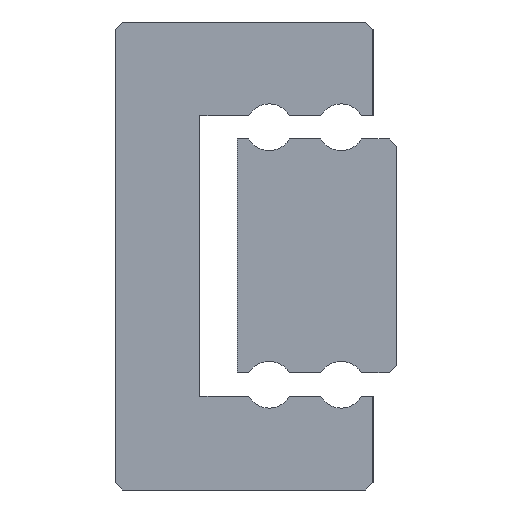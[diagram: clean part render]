
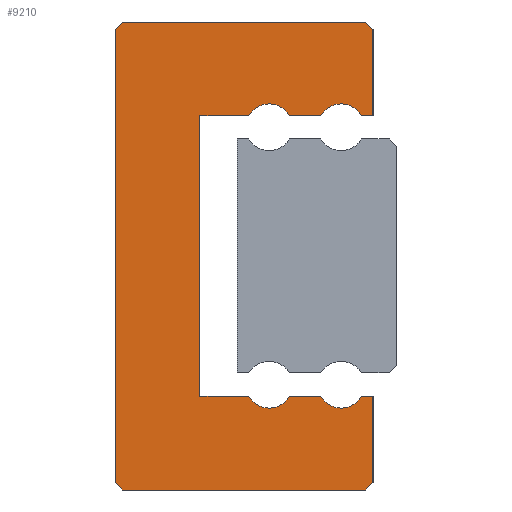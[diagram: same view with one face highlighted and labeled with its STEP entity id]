
A CAD part, left-side view. The second image highlights one B-rep face of the part: STEP entity #9210.
In plain terms, the highlighted planar face has unit normal (-1, 0, 0).
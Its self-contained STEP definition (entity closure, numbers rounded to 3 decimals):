
#294=CIRCLE('',#9994,0.5);
#296=CIRCLE('',#9998,0.5);
#302=CIRCLE('',#10008,0.5);
#304=CIRCLE('',#10012,0.5);
#1538=ORIENTED_EDGE('',*,*,#3866,.F.);
#1539=ORIENTED_EDGE('',*,*,#4314,.F.);
#1540=ORIENTED_EDGE('',*,*,#4311,.F.);
#1541=ORIENTED_EDGE('',*,*,#4304,.F.);
#1542=ORIENTED_EDGE('',*,*,#4301,.F.);
#1543=ORIENTED_EDGE('',*,*,#4298,.F.);
#1544=ORIENTED_EDGE('',*,*,#4295,.F.);
#1545=ORIENTED_EDGE('',*,*,#4292,.F.);
#1546=ORIENTED_EDGE('',*,*,#4289,.T.);
#1547=ORIENTED_EDGE('',*,*,#4286,.F.);
#1548=ORIENTED_EDGE('',*,*,#4283,.T.);
#1549=ORIENTED_EDGE('',*,*,#4280,.F.);
#1550=ORIENTED_EDGE('',*,*,#4277,.F.);
#1551=ORIENTED_EDGE('',*,*,#4270,.F.);
#1552=ORIENTED_EDGE('',*,*,#4267,.T.);
#1553=ORIENTED_EDGE('',*,*,#4264,.F.);
#1554=ORIENTED_EDGE('',*,*,#4261,.T.);
#1555=ORIENTED_EDGE('',*,*,#4258,.F.);
#1556=ORIENTED_EDGE('',*,*,#4255,.F.);
#1557=ORIENTED_EDGE('',*,*,#4252,.F.);
#3866=EDGE_CURVE('',#5284,#5285,#6246,.T.);
#4252=EDGE_CURVE('',#5285,#5670,#6384,.T.);
#4255=EDGE_CURVE('',#5670,#5672,#6387,.T.);
#4258=EDGE_CURVE('',#5672,#5674,#6390,.T.);
#4261=EDGE_CURVE('',#5676,#5674,#294,.T.);
#4264=EDGE_CURVE('',#5676,#5678,#6394,.T.);
#4267=EDGE_CURVE('',#5680,#5678,#296,.T.);
#4270=EDGE_CURVE('',#5680,#5682,#6398,.T.);
#4277=EDGE_CURVE('',#5682,#5688,#6401,.T.);
#4280=EDGE_CURVE('',#5688,#5690,#6404,.T.);
#4283=EDGE_CURVE('',#5692,#5690,#302,.T.);
#4286=EDGE_CURVE('',#5692,#5694,#6408,.T.);
#4289=EDGE_CURVE('',#5696,#5694,#304,.T.);
#4292=EDGE_CURVE('',#5696,#5698,#6412,.T.);
#4295=EDGE_CURVE('',#5698,#5700,#6415,.T.);
#4298=EDGE_CURVE('',#5700,#5702,#6418,.T.);
#4301=EDGE_CURVE('',#5702,#5704,#6421,.T.);
#4304=EDGE_CURVE('',#5704,#5706,#6424,.T.);
#4311=EDGE_CURVE('',#5706,#5712,#6427,.T.);
#4314=EDGE_CURVE('',#5712,#5284,#6430,.T.);
#5284=VERTEX_POINT('',#14021);
#5285=VERTEX_POINT('',#14022);
#5670=VERTEX_POINT('',#14794);
#5672=VERTEX_POINT('',#14800);
#5674=VERTEX_POINT('',#14806);
#5676=VERTEX_POINT('',#14812);
#5678=VERTEX_POINT('',#14818);
#5680=VERTEX_POINT('',#14824);
#5682=VERTEX_POINT('',#14830);
#5688=VERTEX_POINT('',#14844);
#5690=VERTEX_POINT('',#14850);
#5692=VERTEX_POINT('',#14856);
#5694=VERTEX_POINT('',#14862);
#5696=VERTEX_POINT('',#14868);
#5698=VERTEX_POINT('',#14874);
#5700=VERTEX_POINT('',#14880);
#5702=VERTEX_POINT('',#14886);
#5704=VERTEX_POINT('',#14892);
#5706=VERTEX_POINT('',#14898);
#5712=VERTEX_POINT('',#14912);
#6246=LINE('',#14020,#7062);
#6384=LINE('',#14793,#7200);
#6387=LINE('',#14799,#7203);
#6390=LINE('',#14805,#7206);
#6394=LINE('',#14817,#7210);
#6398=LINE('',#14829,#7214);
#6401=LINE('',#14843,#7217);
#6404=LINE('',#14849,#7220);
#6408=LINE('',#14861,#7224);
#6412=LINE('',#14873,#7228);
#6415=LINE('',#14879,#7231);
#6418=LINE('',#14885,#7234);
#6421=LINE('',#14891,#7237);
#6424=LINE('',#14897,#7240);
#6427=LINE('',#14911,#7243);
#6430=LINE('',#14917,#7246);
#7062=VECTOR('',#10941,1000.);
#7200=VECTOR('',#11577,1000.);
#7203=VECTOR('',#11582,1000.);
#7206=VECTOR('',#11587,1000.);
#7210=VECTOR('',#11599,1000.);
#7214=VECTOR('',#11611,1000.);
#7217=VECTOR('',#11624,1000.);
#7220=VECTOR('',#11629,1000.);
#7224=VECTOR('',#11641,1000.);
#7228=VECTOR('',#11653,1000.);
#7231=VECTOR('',#11658,1000.);
#7234=VECTOR('',#11663,1000.);
#7237=VECTOR('',#11668,1000.);
#7240=VECTOR('',#11673,1000.);
#7243=VECTOR('',#11686,1000.);
#7246=VECTOR('',#11691,1000.);
#7918=EDGE_LOOP('',(#1538,#1539,#1540,#1541,#1542,#1543,#1544,#1545,#1546,
#1547,#1548,#1549,#1550,#1551,#1552,#1553,#1554,#1555,#1556,#1557));
#8480=FACE_BOUND('',#7918,.T.);
#8997=PLANE('',#10026);
#9210=ADVANCED_FACE('',(#8480),#8997,.F.);
#9994=AXIS2_PLACEMENT_3D('',#14811,#11592,#11593);
#9998=AXIS2_PLACEMENT_3D('',#14823,#11604,#11605);
#10008=AXIS2_PLACEMENT_3D('',#14855,#11634,#11635);
#10012=AXIS2_PLACEMENT_3D('',#14867,#11646,#11647);
#10026=AXIS2_PLACEMENT_3D('',#14920,#11695,#11696);
#10941=DIRECTION('',(0.,-1.,0.));
#11577=DIRECTION('',(0.,-0.707,-0.707));
#11582=DIRECTION('',(0.,0.,-1.));
#11587=DIRECTION('',(0.,1.,0.));
#11592=DIRECTION('',(1.,0.,0.));
#11593=DIRECTION('',(0.,0.,-1.));
#11599=DIRECTION('',(0.,1.,0.));
#11604=DIRECTION('',(1.,0.,0.));
#11605=DIRECTION('',(0.,0.,-1.));
#11611=DIRECTION('',(0.,1.,0.));
#11624=DIRECTION('',(0.,0.,-1.));
#11629=DIRECTION('',(0.,-1.,0.));
#11634=DIRECTION('',(1.,0.,0.));
#11635=DIRECTION('',(0.,0.,-1.));
#11641=DIRECTION('',(0.,-1.,0.));
#11646=DIRECTION('',(1.,0.,0.));
#11647=DIRECTION('',(0.,0.,-1.));
#11653=DIRECTION('',(0.,-1.,0.));
#11658=DIRECTION('',(0.,0.,-1.));
#11663=DIRECTION('',(0.,0.707,-0.707));
#11668=DIRECTION('',(0.,1.,0.));
#11673=DIRECTION('',(0.,0.707,0.707));
#11686=DIRECTION('',(0.,0.,1.));
#11691=DIRECTION('',(0.,-0.707,0.707));
#11695=DIRECTION('',(1.,0.,0.));
#11696=DIRECTION('',(0.,0.,-1.));
#14020=CARTESIAN_POINT('',(-22.5,5.35,5.));
#14021=CARTESIAN_POINT('',(-22.5,5.35,5.));
#14022=CARTESIAN_POINT('',(-22.5,0.15,5.));
#14793=CARTESIAN_POINT('',(-22.5,0.15,5.));
#14794=CARTESIAN_POINT('',(-22.5,0.,4.85));
#14799=CARTESIAN_POINT('',(-22.5,0.,4.85));
#14800=CARTESIAN_POINT('',(-22.5,0.,3.));
#14805=CARTESIAN_POINT('',(-22.5,0.,3.));
#14806=CARTESIAN_POINT('',(-22.5,0.247,3.));
#14811=CARTESIAN_POINT('',(-22.5,0.68,2.75));
#14812=CARTESIAN_POINT('',(-22.5,1.113,3.));
#14817=CARTESIAN_POINT('',(-22.5,1.113,3.));
#14818=CARTESIAN_POINT('',(-22.5,1.787,3.));
#14823=CARTESIAN_POINT('',(-22.5,2.22,2.75));
#14824=CARTESIAN_POINT('',(-22.5,2.653,3.));
#14829=CARTESIAN_POINT('',(-22.5,2.653,3.));
#14830=CARTESIAN_POINT('',(-22.5,3.7,3.));
#14843=CARTESIAN_POINT('',(-22.5,3.7,3.));
#14844=CARTESIAN_POINT('',(-22.5,3.7,-3.));
#14849=CARTESIAN_POINT('',(-22.5,3.7,-3.));
#14850=CARTESIAN_POINT('',(-22.5,2.653,-3.));
#14855=CARTESIAN_POINT('',(-22.5,2.22,-2.75));
#14856=CARTESIAN_POINT('',(-22.5,1.787,-3.));
#14861=CARTESIAN_POINT('',(-22.5,1.787,-3.));
#14862=CARTESIAN_POINT('',(-22.5,1.113,-3.));
#14867=CARTESIAN_POINT('',(-22.5,0.68,-2.75));
#14868=CARTESIAN_POINT('',(-22.5,0.247,-3.));
#14873=CARTESIAN_POINT('',(-22.5,0.247,-3.));
#14874=CARTESIAN_POINT('',(-22.5,0.,-3.));
#14879=CARTESIAN_POINT('',(-22.5,0.,-3.));
#14880=CARTESIAN_POINT('',(-22.5,0.,-4.85));
#14885=CARTESIAN_POINT('',(-22.5,0.,-4.85));
#14886=CARTESIAN_POINT('',(-22.5,0.15,-5.));
#14891=CARTESIAN_POINT('',(-22.5,0.15,-5.));
#14892=CARTESIAN_POINT('',(-22.5,5.35,-5.));
#14897=CARTESIAN_POINT('',(-22.5,5.35,-5.));
#14898=CARTESIAN_POINT('',(-22.5,5.5,-4.85));
#14911=CARTESIAN_POINT('',(-22.5,5.5,-4.85));
#14912=CARTESIAN_POINT('',(-22.5,5.5,4.85));
#14917=CARTESIAN_POINT('',(-22.5,5.5,4.85));
#14920=CARTESIAN_POINT('',(-22.5,0.68,2.75));
